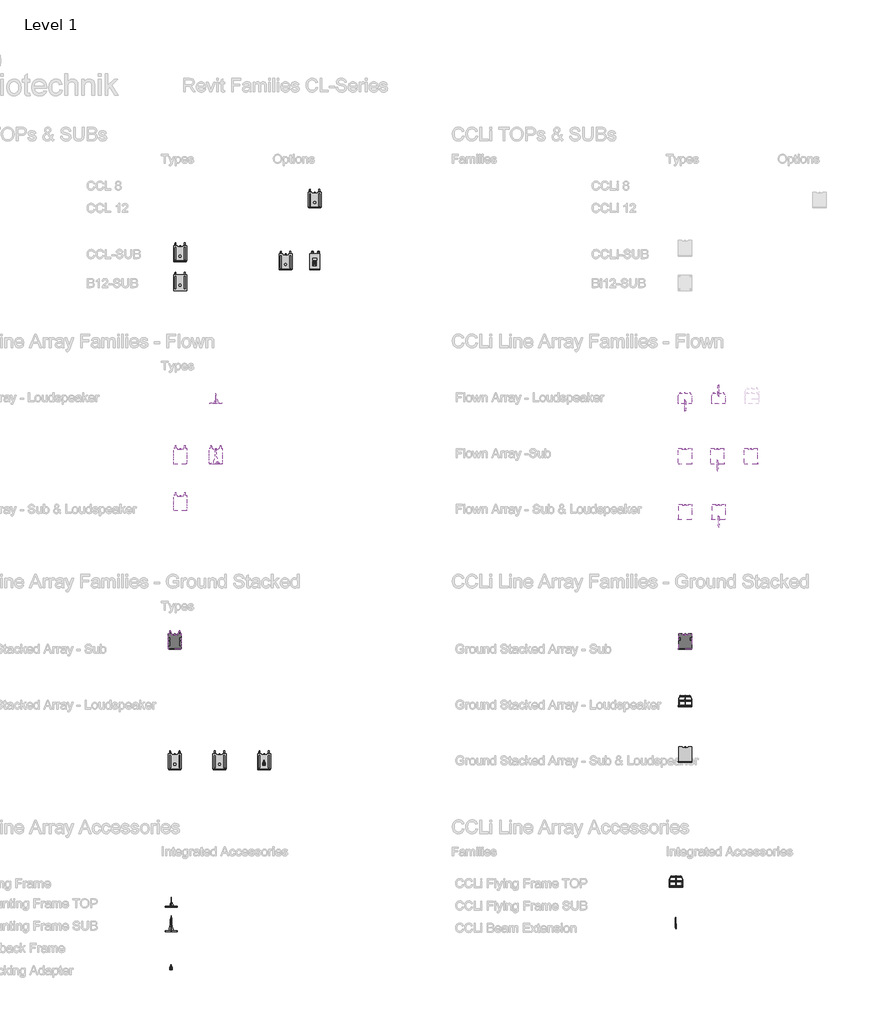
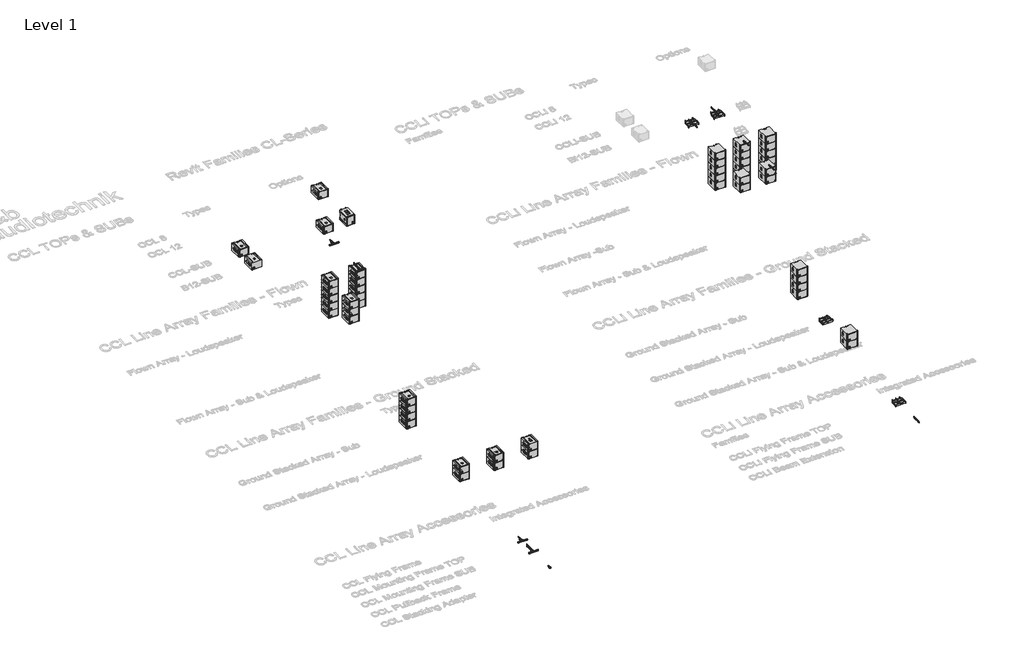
# One storey, part 1 of 31: 69 proxies.
"""IFC4 building model written with IfcOpenShell, lengths in millimetres."""

from ifc_helpers import new_model, si_unit, origin, place, context, project, spatial, transform, mapped, element, save
from components import communication_devices_fb2c1ed3, communication_devices_adbe50ae, communication_devices_fb72d271, communication_devices_d598217c, communication_devices_8c2810ba, communication_devices_898eba8c, communication_devices_964db2fb, communication_devices_39887777, b12_sub_ed2cee65, b12_sub_e7cbb8c9, b12_sub_46f5f9e7, ccl_mounting_frame_sub_df6a48cd, ccl_mounting_frame_sub_d8e833bb, ccl_mounting_frame_top_87f3c3ac, ccl_mounting_frame_top_1212049c, ccl_stacking_adapter_d4930768, ccl_sub_ef88d173, ccl_sub_9b849b68, ccl_sub_ec176843, ccl_sub_fae7e5b5, ccl_sub_53e2f06a, ccl_sub_f0981f6c, ccl_sub_f7413ddf, ccl_sub_1b7c7d1c

model = new_model("IFC4")

# Units and contexts
model_context = context("Model", 3, world=origin())
ifc_project = project(units=[si_unit("LENGTHUNIT", "METRE", prefix="MILLI")], contexts=[model_context])

# Site, building, storey
site = spatial("IfcSite", under=ifc_project)
building = spatial("IfcBuilding", under=site)
storey = spatial("IfcBuildingStorey", under=building, Name="Level 1", Elevation=0.0)

# Proxies
placement = place(None, origin())
communication_devices_shape = communication_devices_fb2c1ed3(model_context)
element("IfcBuildingElementProxy", 1, Name="d&b CL-Series ArraySight Sender Unit : ArraySight Sender Unit", ObjectType="d&b CL-Series ArraySight Sender Unit : ArraySight Sender Unit", at=placement, inside=storey, context=model_context, shape_type="MappedRepresentation", body=[
    mapped(communication_devices_shape, transform((-8986.6434304, 3878.6606066, 4000.03125), x_axis=(1.0, 0.0, 0.0), y_axis=(0.0, 1.0, 0.0), z_axis=(0.0, 0.0, 1.0))),
])
communication_devices_2_shape = communication_devices_adbe50ae(model_context)
communication_devices_3_shape = communication_devices_fb72d271(model_context)
communication_devices_4_shape = communication_devices_d598217c(model_context)
element("IfcBuildingElementProxy", 2, Name="d&b CL-Series CCLi Flying Frame TOP : d&b CL-Series CCLi Flying Frame TOP", ObjectType="d&b CL-Series CCLi Flying Frame TOP : d&b CL-Series CCLi Flying Frame TOP", at=placement, inside=storey, context=model_context, shape_type="MappedRepresentation", body=[
    mapped(communication_devices_2_shape, transform((11975.179764, -6989.4300168, 99.0), x_axis=(-1.0, 0.0, 0.0), y_axis=(0.0, 1.0, 0.0), z_axis=(0.0, 0.0, -1.0))),
    mapped(communication_devices_3_shape, transform((11975.179764, -6989.4300168, 99.0), x_axis=(-1.0, 0.0, 0.0), y_axis=(0.0, 1.0, 0.0), z_axis=(0.0, 0.0, -1.0))),
    mapped(communication_devices_4_shape, transform((11975.179764, -6989.4300168, 99.0), x_axis=(-1.0, 0.0, 0.0), y_axis=(0.0, 1.0, 0.0), z_axis=(0.0, 0.0, -1.0))),
])
communication_devices_5_shape = communication_devices_8c2810ba(model_context)
element("IfcBuildingElementProxy", 3, Name="d&b CL-Series CCLi Beam Extension : d&b CL-Series CCLi Beam Extension", ObjectType="d&b CL-Series CCLi Beam Extension : d&b CL-Series CCLi Beam Extension", at=placement, inside=storey, context=model_context, shape_type="MappedRepresentation", body=[
    mapped(communication_devices_5_shape, transform((11571.179764, -16813.4300168, 0.0), x_axis=(1.0, 0.0, 0.0), y_axis=(0.0, 1.0, 0.0), z_axis=(0.0, 0.0, 1.0))),
])
element("IfcBuildingElementProxy", 4, Name="d&b CL-Series CCLi Beam Extension : d&b CL-Series CCLi Beam Extension", ObjectType="d&b CL-Series CCLi Beam Extension : d&b CL-Series CCLi Beam Extension", at=placement, inside=storey, context=model_context, shape_type="MappedRepresentation", body=[
    mapped(communication_devices_5_shape, transform((13481.179764, 7017.9106066, 4030.25), x_axis=(1.0, 0.0, 0.0), y_axis=(0.0, 1.0, 0.0), z_axis=(0.0, 0.0, 1.0))),
])
element("IfcBuildingElementProxy", 5, Name="d&b CL-Series CCLi Beam Extension : d&b CL-Series CCLi Beam Extension", ObjectType="d&b CL-Series CCLi Beam Extension : d&b CL-Series CCLi Beam Extension", at=placement, inside=storey, context=model_context, shape_type="MappedRepresentation", body=[
    mapped(communication_devices_5_shape, transform((13410.0685035, 3944.4106066, 4030.65), x_axis=(-1.0, 0.0, 0.0), y_axis=(0.0, -1.0, 0.0), z_axis=(0.0, 0.0, 1.0))),
])
element("IfcBuildingElementProxy", 6, Name="d&b CL-Series CCLi Beam Extension : d&b CL-Series CCLi Beam Extension", ObjectType="d&b CL-Series CCLi Beam Extension : d&b CL-Series CCLi Beam Extension", at=placement, inside=storey, context=model_context, shape_type="MappedRepresentation", body=[
    mapped(communication_devices_5_shape, transform((13465.179764, 1447.0739696, 4030.65), x_axis=(-1.0, 0.0, 0.0), y_axis=(0.0, -1.0, 0.0), z_axis=(0.0, 0.0, 1.0))),
])
element("IfcBuildingElementProxy", 7, Name="d&b CL-Series CCLi Beam Extension : d&b CL-Series CCLi Beam Extension", ObjectType="d&b CL-Series CCLi Beam Extension : d&b CL-Series CCLi Beam Extension", at=placement, inside=storey, context=model_context, shape_type="MappedRepresentation", body=[
    mapped(communication_devices_5_shape, transform((11961.179764, 6644.4106066, 4030.25), x_axis=(-1.0, 0.0, 0.0), y_axis=(0.0, -1.0, 0.0), z_axis=(0.0, 0.0, 1.0))),
])
communication_devices_6_shape = communication_devices_898eba8c(model_context)
communication_devices_7_shape = communication_devices_964db2fb(model_context)
element("IfcBuildingElementProxy", 8, Name="d&b CL-Series CCLi-SUB : CCLi-SUB", ObjectType="d&b CL-Series CCLi-SUB : CCLi-SUB", at=placement, inside=storey, context=model_context, shape_type="MappedRepresentation", body=[
    mapped(communication_devices_6_shape, transform((9471.179764, 3933.9100093, 3539.3), x_axis=(1.0, 0.0, 0.0), y_axis=(0.0, 1.0, 0.0), z_axis=(0.0, 0.0, 1.0))),
    mapped(communication_devices_7_shape, transform((9471.179764, 3933.9100093, 3539.3), x_axis=(1.0, 0.0, 0.0), y_axis=(0.0, 1.0, 0.0), z_axis=(0.0, 0.0, 1.0))),
])
element("IfcBuildingElementProxy", 9, Name="d&b CL-Series CCLi-SUB : CCLi-SUB", ObjectType="d&b CL-Series CCLi-SUB : CCLi-SUB", at=placement, inside=storey, context=model_context, shape_type="MappedRepresentation", body=[
    mapped(communication_devices_6_shape, transform((9471.179764, 3933.9100093, 3084.8), x_axis=(1.0, 0.0, 0.0), y_axis=(0.0, 1.0, 0.0), z_axis=(0.0, 0.0, 1.0))),
    mapped(communication_devices_7_shape, transform((9471.179764, 3933.9100093, 3084.8), x_axis=(1.0, 0.0, 0.0), y_axis=(0.0, 1.0, 0.0), z_axis=(0.0, 0.0, 1.0))),
])
element("IfcBuildingElementProxy", 10, Name="d&b CL-Series CCLi-SUB : CCLi-SUB", ObjectType="d&b CL-Series CCLi-SUB : CCLi-SUB", at=placement, inside=storey, context=model_context, shape_type="MappedRepresentation", body=[
    mapped(communication_devices_6_shape, transform((9471.179764, 3933.9100093, 2630.3), x_axis=(1.0, 0.0, 0.0), y_axis=(0.0, 1.0, 0.0), z_axis=(0.0, 0.0, 1.0))),
    mapped(communication_devices_7_shape, transform((9471.179764, 3933.9100093, 2630.3), x_axis=(1.0, 0.0, 0.0), y_axis=(0.0, 1.0, 0.0), z_axis=(0.0, 0.0, 1.0))),
])
element("IfcBuildingElementProxy", 11, Name="d&b CL-Series CCLi-SUB : CCLi-SUB", ObjectType="d&b CL-Series CCLi-SUB : CCLi-SUB", at=placement, inside=storey, context=model_context, shape_type="MappedRepresentation", body=[
    mapped(communication_devices_6_shape, transform((9471.179764, 3933.9100093, 2175.8), x_axis=(1.0, 0.0, 0.0), y_axis=(0.0, 1.0, 0.0), z_axis=(0.0, 0.0, 1.0))),
    mapped(communication_devices_7_shape, transform((9471.179764, 3933.9100093, 2175.8), x_axis=(1.0, 0.0, 0.0), y_axis=(0.0, 1.0, 0.0), z_axis=(0.0, 0.0, 1.0))),
])
element("IfcBuildingElementProxy", 12, Name="d&b CL-Series CCLi-SUB : CCLi-SUB", ObjectType="d&b CL-Series CCLi-SUB : CCLi-SUB", at=placement, inside=storey, context=model_context, shape_type="MappedRepresentation", body=[
    mapped(communication_devices_6_shape, transform((9471.179764, 3933.9100093, 1721.3), x_axis=(1.0, 0.0, 0.0), y_axis=(0.0, 1.0, 0.0), z_axis=(0.0, 0.0, 1.0))),
    mapped(communication_devices_7_shape, transform((9471.179764, 3933.9100093, 1721.3), x_axis=(1.0, 0.0, 0.0), y_axis=(0.0, 1.0, 0.0), z_axis=(0.0, 0.0, 1.0))),
])
element("IfcBuildingElementProxy", 13, Name="d&b CL-Series CCLi-SUB : CCLi-SUB", ObjectType="d&b CL-Series CCLi-SUB : CCLi-SUB", at=placement, inside=storey, context=model_context, shape_type="MappedRepresentation", body=[
    mapped(communication_devices_6_shape, transform((10920.0685035, 3933.9100093, 3539.3), x_axis=(1.0, 0.0, 0.0), y_axis=(0.0, 1.0, 0.0), z_axis=(0.0, 0.0, 1.0))),
    mapped(communication_devices_7_shape, transform((10920.0685035, 3933.9100093, 3539.3), x_axis=(1.0, 0.0, 0.0), y_axis=(0.0, 1.0, 0.0), z_axis=(0.0, 0.0, 1.0))),
])
element("IfcBuildingElementProxy", 14, Name="d&b CL-Series CCLi-SUB : CCLi-SUB", ObjectType="d&b CL-Series CCLi-SUB : CCLi-SUB", at=placement, inside=storey, context=model_context, shape_type="MappedRepresentation", body=[
    mapped(communication_devices_6_shape, transform((10920.0685035, 3933.9100093, 3084.8), x_axis=(1.0, 0.0, 0.0), y_axis=(0.0, 1.0, 0.0), z_axis=(0.0, 0.0, 1.0))),
    mapped(communication_devices_7_shape, transform((10920.0685035, 3933.9100093, 3084.8), x_axis=(1.0, 0.0, 0.0), y_axis=(0.0, 1.0, 0.0), z_axis=(0.0, 0.0, 1.0))),
])
element("IfcBuildingElementProxy", 15, Name="d&b CL-Series CCLi-SUB : CCLi-SUB", ObjectType="d&b CL-Series CCLi-SUB : CCLi-SUB", at=placement, inside=storey, context=model_context, shape_type="MappedRepresentation", body=[
    mapped(communication_devices_6_shape, transform((10920.0685035, 3933.9100093, 2630.3), x_axis=(1.0, 0.0, 0.0), y_axis=(0.0, 1.0, 0.0), z_axis=(0.0, 0.0, 1.0))),
    mapped(communication_devices_7_shape, transform((10920.0685035, 3933.9100093, 2630.3), x_axis=(1.0, 0.0, 0.0), y_axis=(0.0, 1.0, 0.0), z_axis=(0.0, 0.0, 1.0))),
])
element("IfcBuildingElementProxy", 16, Name="d&b CL-Series CCLi-SUB : CCLi-SUB", ObjectType="d&b CL-Series CCLi-SUB : CCLi-SUB", at=placement, inside=storey, context=model_context, shape_type="MappedRepresentation", body=[
    mapped(communication_devices_6_shape, transform((10920.0685035, 3933.9100093, 2175.8), x_axis=(1.0, 0.0, 0.0), y_axis=(0.0, 1.0, 0.0), z_axis=(0.0, 0.0, 1.0))),
    mapped(communication_devices_7_shape, transform((10920.0685035, 3933.9100093, 2175.8), x_axis=(1.0, 0.0, 0.0), y_axis=(0.0, 1.0, 0.0), z_axis=(0.0, 0.0, 1.0))),
])
element("IfcBuildingElementProxy", 17, Name="d&b CL-Series CCLi-SUB : CCLi-SUB", ObjectType="d&b CL-Series CCLi-SUB : CCLi-SUB", at=placement, inside=storey, context=model_context, shape_type="MappedRepresentation", body=[
    mapped(communication_devices_6_shape, transform((10920.0685035, 3933.9100093, 1721.3), x_axis=(1.0, 0.0, 0.0), y_axis=(0.0, 1.0, 0.0), z_axis=(0.0, 0.0, 1.0))),
    mapped(communication_devices_7_shape, transform((10920.0685035, 3933.9100093, 1721.3), x_axis=(1.0, 0.0, 0.0), y_axis=(0.0, 1.0, 0.0), z_axis=(0.0, 0.0, 1.0))),
])
element("IfcBuildingElementProxy", 18, Name="d&b CL-Series CCLi-SUB : CCLi-SUB", ObjectType="d&b CL-Series CCLi-SUB : CCLi-SUB", at=placement, inside=storey, context=model_context, shape_type="MappedRepresentation", body=[
    mapped(communication_devices_6_shape, transform((12420.0685035, 3933.9100093, 3539.3), x_axis=(1.0, 0.0, 0.0), y_axis=(0.0, 1.0, 0.0), z_axis=(0.0, 0.0, 1.0))),
    mapped(communication_devices_7_shape, transform((12420.0685035, 3933.9100093, 3539.3), x_axis=(1.0, 0.0, 0.0), y_axis=(0.0, 1.0, 0.0), z_axis=(0.0, 0.0, 1.0))),
])
element("IfcBuildingElementProxy", 19, Name="d&b CL-Series CCLi-SUB : CCLi-SUB", ObjectType="d&b CL-Series CCLi-SUB : CCLi-SUB", at=placement, inside=storey, context=model_context, shape_type="MappedRepresentation", body=[
    mapped(communication_devices_6_shape, transform((12420.0685035, 3933.9100093, 3084.8), x_axis=(1.0, 0.0, 0.0), y_axis=(0.0, 1.0, 0.0), z_axis=(0.0, 0.0, 1.0))),
    mapped(communication_devices_7_shape, transform((12420.0685035, 3933.9100093, 3084.8), x_axis=(1.0, 0.0, 0.0), y_axis=(0.0, 1.0, 0.0), z_axis=(0.0, 0.0, 1.0))),
])
element("IfcBuildingElementProxy", 20, Name="d&b CL-Series CCLi-SUB : CCLi-SUB", ObjectType="d&b CL-Series CCLi-SUB : CCLi-SUB", at=placement, inside=storey, context=model_context, shape_type="MappedRepresentation", body=[
    mapped(communication_devices_6_shape, transform((12420.0685035, 3933.9100093, 2630.3), x_axis=(1.0, 0.0, 0.0), y_axis=(0.0, 1.0, 0.0), z_axis=(0.0, 0.0, 1.0))),
    mapped(communication_devices_7_shape, transform((12420.0685035, 3933.9100093, 2630.3), x_axis=(1.0, 0.0, 0.0), y_axis=(0.0, 1.0, 0.0), z_axis=(0.0, 0.0, 1.0))),
])
element("IfcBuildingElementProxy", 21, Name="d&b CL-Series CCLi-SUB : CCLi-SUB", ObjectType="d&b CL-Series CCLi-SUB : CCLi-SUB", at=placement, inside=storey, context=model_context, shape_type="MappedRepresentation", body=[
    mapped(communication_devices_6_shape, transform((12420.0685035, 3933.9100093, 2175.8), x_axis=(1.0, 0.0, 0.0), y_axis=(0.0, 1.0, 0.0), z_axis=(0.0, 0.0, 1.0))),
    mapped(communication_devices_7_shape, transform((12420.0685035, 3933.9100093, 2175.8), x_axis=(1.0, 0.0, 0.0), y_axis=(0.0, 1.0, 0.0), z_axis=(0.0, 0.0, 1.0))),
])
element("IfcBuildingElementProxy", 22, Name="d&b CL-Series CCLi-SUB : CCLi-SUB", ObjectType="d&b CL-Series CCLi-SUB : CCLi-SUB", at=placement, inside=storey, context=model_context, shape_type="MappedRepresentation", body=[
    mapped(communication_devices_6_shape, transform((12420.0685035, 3933.9100093, 1721.3), x_axis=(1.0, 0.0, 0.0), y_axis=(0.0, 1.0, 0.0), z_axis=(0.0, 0.0, 1.0))),
    mapped(communication_devices_7_shape, transform((12420.0685035, 3933.9100093, 1721.3), x_axis=(1.0, 0.0, 0.0), y_axis=(0.0, 1.0, 0.0), z_axis=(0.0, 0.0, 1.0))),
])
element("IfcBuildingElementProxy", 23, Name="d&b CL-Series CCLi-SUB : CCLi-SUB", ObjectType="d&b CL-Series CCLi-SUB : CCLi-SUB", at=placement, inside=storey, context=model_context, shape_type="MappedRepresentation", body=[
    mapped(communication_devices_6_shape, transform((9475.179764, -4366.2515644, 0.0), x_axis=(1.0, 0.0, 0.0), y_axis=(0.0, 1.0, 0.0), z_axis=(0.0, 0.0, 1.0))),
    mapped(communication_devices_7_shape, transform((9475.179764, -4366.2515644, 0.0), x_axis=(1.0, 0.0, 0.0), y_axis=(0.0, 1.0, 0.0), z_axis=(0.0, 0.0, 1.0))),
])
element("IfcBuildingElementProxy", 24, Name="d&b CL-Series CCLi-SUB : CCLi-SUB", ObjectType="d&b CL-Series CCLi-SUB : CCLi-SUB", at=placement, inside=storey, context=model_context, shape_type="MappedRepresentation", body=[
    mapped(communication_devices_6_shape, transform((9475.179764, -4366.2526829, 454.4969022), x_axis=(1.0, 0.0, 0.0), y_axis=(0.0, 0.9999999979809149, -6.354659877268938e-05), z_axis=(0.0, 6.354659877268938e-05, 0.9999999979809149))),
    mapped(communication_devices_7_shape, transform((9475.179764, -4366.2526829, 454.4969022), x_axis=(1.0, 0.0, 0.0), y_axis=(0.0, 0.9999999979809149, -6.354659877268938e-05), z_axis=(0.0, 6.354659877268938e-05, 0.9999999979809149))),
])
element("IfcBuildingElementProxy", 25, Name="d&b CL-Series CCLi-SUB : CCLi-SUB", ObjectType="d&b CL-Series CCLi-SUB : CCLi-SUB", at=placement, inside=storey, context=model_context, shape_type="MappedRepresentation", body=[
    mapped(communication_devices_6_shape, transform((9475.179764, -4366.223801, 908.9969013), x_axis=(1.0, 0.0, 0.0), y_axis=(0.0, 0.999999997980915, -6.354659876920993e-05), z_axis=(0.0, 6.354659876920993e-05, 0.999999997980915))),
    mapped(communication_devices_7_shape, transform((9475.179764, -4366.223801, 908.9969013), x_axis=(1.0, 0.0, 0.0), y_axis=(0.0, 0.999999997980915, -6.354659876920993e-05), z_axis=(0.0, 6.354659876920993e-05, 0.999999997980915))),
])
element("IfcBuildingElementProxy", 26, Name="d&b CL-Series CCLi-SUB : CCLi-SUB", ObjectType="d&b CL-Series CCLi-SUB : CCLi-SUB", at=placement, inside=storey, context=model_context, shape_type="MappedRepresentation", body=[
    mapped(communication_devices_6_shape, transform((9475.179764, -4366.1949191, 1363.4969003), x_axis=(1.0, 0.0, 0.0), y_axis=(0.0, 0.999999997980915, -6.354659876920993e-05), z_axis=(0.0, 6.354659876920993e-05, 0.999999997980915))),
    mapped(communication_devices_7_shape, transform((9475.179764, -4366.1949191, 1363.4969003), x_axis=(1.0, 0.0, 0.0), y_axis=(0.0, 0.999999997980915, -6.354659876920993e-05), z_axis=(0.0, 6.354659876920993e-05, 0.999999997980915))),
])
element("IfcBuildingElementProxy", 27, Name="d&b CL-Series CCLi-SUB : CCLi-SUB", ObjectType="d&b CL-Series CCLi-SUB : CCLi-SUB", at=placement, inside=storey, context=model_context, shape_type="MappedRepresentation", body=[
    mapped(communication_devices_6_shape, transform((9475.179764, -9427.4306141, -5.0), x_axis=(1.0, 0.0, 0.0), y_axis=(0.0, 1.0, 0.0), z_axis=(0.0, 0.0, 1.0))),
    mapped(communication_devices_7_shape, transform((9475.179764, -9427.4306141, -5.0), x_axis=(1.0, 0.0, 0.0), y_axis=(0.0, 1.0, 0.0), z_axis=(0.0, 0.0, 1.0))),
])
element("IfcBuildingElementProxy", 28, Name="d&b CL-Series CCLi-SUB : CCLi-SUB", ObjectType="d&b CL-Series CCLi-SUB : CCLi-SUB", at=placement, inside=storey, context=model_context, shape_type="MappedRepresentation", body=[
    mapped(communication_devices_6_shape, transform((9475.179764, -9427.4306141, 450.0), x_axis=(1.0, 0.0, 0.0), y_axis=(0.0, 1.0, 0.0), z_axis=(0.0, 0.0, 1.0))),
    mapped(communication_devices_7_shape, transform((9475.179764, -9427.4306141, 450.0), x_axis=(1.0, 0.0, 0.0), y_axis=(0.0, 1.0, 0.0), z_axis=(0.0, 0.0, 1.0))),
])
element("IfcBuildingElementProxy", 29, Name="d&b CL-Series CCLi-SUB : CCLi-SUB", ObjectType="d&b CL-Series CCLi-SUB : CCLi-SUB", at=placement, inside=storey, context=model_context, shape_type="MappedRepresentation", body=[
    mapped(communication_devices_6_shape, transform((9475.179764, 1436.5733723, 3539.3), x_axis=(1.0, 0.0, 0.0), y_axis=(0.0, 1.0, 0.0), z_axis=(0.0, 0.0, 1.0))),
    mapped(communication_devices_7_shape, transform((9475.179764, 1436.5733723, 3539.3), x_axis=(1.0, 0.0, 0.0), y_axis=(0.0, 1.0, 0.0), z_axis=(0.0, 0.0, 1.0))),
])
element("IfcBuildingElementProxy", 30, Name="d&b CL-Series CCLi-SUB : CCLi-SUB", ObjectType="d&b CL-Series CCLi-SUB : CCLi-SUB", at=placement, inside=storey, context=model_context, shape_type="MappedRepresentation", body=[
    mapped(communication_devices_6_shape, transform((9475.179764, 1436.5733723, 3084.8), x_axis=(1.0, 0.0, 0.0), y_axis=(0.0, 1.0, 0.0), z_axis=(0.0, 0.0, 1.0))),
    mapped(communication_devices_7_shape, transform((9475.179764, 1436.5733723, 3084.8), x_axis=(1.0, 0.0, 0.0), y_axis=(0.0, 1.0, 0.0), z_axis=(0.0, 0.0, 1.0))),
])
element("IfcBuildingElementProxy", 31, Name="d&b CL-Series CCLi-SUB : CCLi-SUB", ObjectType="d&b CL-Series CCLi-SUB : CCLi-SUB", at=placement, inside=storey, context=model_context, shape_type="MappedRepresentation", body=[
    mapped(communication_devices_6_shape, transform((10975.179764, 1436.5733723, 3539.3), x_axis=(1.0, 0.0, 0.0), y_axis=(0.0, 1.0, 0.0), z_axis=(0.0, 0.0, 1.0))),
    mapped(communication_devices_7_shape, transform((10975.179764, 1436.5733723, 3539.3), x_axis=(1.0, 0.0, 0.0), y_axis=(0.0, 1.0, 0.0), z_axis=(0.0, 0.0, 1.0))),
])
element("IfcBuildingElementProxy", 32, Name="d&b CL-Series CCLi-SUB : CCLi-SUB", ObjectType="d&b CL-Series CCLi-SUB : CCLi-SUB", at=placement, inside=storey, context=model_context, shape_type="MappedRepresentation", body=[
    mapped(communication_devices_6_shape, transform((10975.179764, 1436.5733723, 3084.8), x_axis=(1.0, 0.0, 0.0), y_axis=(0.0, 1.0, 0.0), z_axis=(0.0, 0.0, 1.0))),
    mapped(communication_devices_7_shape, transform((10975.179764, 1436.5733723, 3084.8), x_axis=(1.0, 0.0, 0.0), y_axis=(0.0, 1.0, 0.0), z_axis=(0.0, 0.0, 1.0))),
])
communication_devices_8_shape = communication_devices_39887777(model_context)
element("IfcBuildingElementProxy", 33, Name="d&b CL-Series CCLi Flying Frame TOP : d&b CL-Series CCLi Flying Frame TOP", ObjectType="d&b CL-Series CCLi Flying Frame TOP : d&b CL-Series CCLi Flying Frame TOP", at=placement, inside=storey, context=model_context, shape_type="MappedRepresentation", body=[
    mapped(communication_devices_8_shape, transform((11571.179764, -15075.4300168, 0.0), x_axis=(1.0, 0.0, 0.0), y_axis=(0.0, 1.0, 0.0), z_axis=(0.0, 0.0, 1.0))),
    mapped(communication_devices_3_shape, transform((11571.179764, -15075.4300168, 0.0), x_axis=(1.0, 0.0, 0.0), y_axis=(0.0, 1.0, 0.0), z_axis=(0.0, 0.0, 1.0))),
    mapped(communication_devices_4_shape, transform((11571.179764, -15075.4300168, 0.0), x_axis=(1.0, 0.0, 0.0), y_axis=(0.0, 1.0, 0.0), z_axis=(0.0, 0.0, 1.0))),
])
element("IfcBuildingElementProxy", 34, Name="d&b CL-Series CCLi Flying Frame TOP : d&b CL-Series CCLi Flying Frame TOP", ObjectType="d&b CL-Series CCLi Flying Frame TOP : d&b CL-Series CCLi Flying Frame TOP", at=placement, inside=storey, context=model_context, shape_type="MappedRepresentation", body=[
    mapped(communication_devices_8_shape, transform((11971.179764, 6571.9106066, 3985.0), x_axis=(1.0, 0.0, 0.0), y_axis=(0.0, 1.0, 0.0), z_axis=(0.0, 0.0, 1.0))),
    mapped(communication_devices_3_shape, transform((11971.179764, 6571.9106066, 3985.0), x_axis=(1.0, 0.0, 0.0), y_axis=(0.0, 1.0, 0.0), z_axis=(0.0, 0.0, 1.0))),
    mapped(communication_devices_4_shape, transform((11971.179764, 6571.9106066, 3985.0), x_axis=(1.0, 0.0, 0.0), y_axis=(0.0, 1.0, 0.0), z_axis=(0.0, 0.0, 1.0))),
])
element("IfcBuildingElementProxy", 35, Name="d&b CL-Series CCLi Flying Frame TOP : d&b CL-Series CCLi Flying Frame TOP", ObjectType="d&b CL-Series CCLi Flying Frame TOP : d&b CL-Series CCLi Flying Frame TOP", at=placement, inside=storey, context=model_context, shape_type="MappedRepresentation", body=[
    mapped(communication_devices_8_shape, transform((13471.179764, 6571.9106066, 3985.0), x_axis=(1.0, 0.0, 0.0), y_axis=(0.0, 1.0, 0.0), z_axis=(0.0, 0.0, 1.0))),
    mapped(communication_devices_3_shape, transform((13471.179764, 6571.9106066, 3985.0), x_axis=(1.0, 0.0, 0.0), y_axis=(0.0, 1.0, 0.0), z_axis=(0.0, 0.0, 1.0))),
    mapped(communication_devices_4_shape, transform((13471.179764, 6571.9106066, 3985.0), x_axis=(1.0, 0.0, 0.0), y_axis=(0.0, 1.0, 0.0), z_axis=(0.0, 0.0, 1.0))),
])
b12_sub_shape = b12_sub_ed2cee65(model_context)
b12_sub_2_shape = b12_sub_e7cbb8c9(model_context)
b12_sub_3_shape = b12_sub_46f5f9e7(model_context)
element("IfcBuildingElementProxy", 36, Name="d&b CL-Series B12-SUB : B12-SUB", ObjectType="d&b CL-Series B12-SUB : B12-SUB", at=placement, inside=storey, context=model_context, shape_type="MappedRepresentation", body=[
    mapped(b12_sub_shape, transform((-13141.6434304, 11707.2506327, 0.0), x_axis=(1.0, 0.0, 0.0), y_axis=(0.0, 1.0, 0.0), z_axis=(0.0, 0.0, 1.0))),
    mapped(b12_sub_2_shape, transform((-13141.6434304, 11707.2506327, 0.0), x_axis=(1.0, 0.0, 0.0), y_axis=(0.0, 1.0, 0.0), z_axis=(0.0, 0.0, 1.0))),
    mapped(b12_sub_3_shape, transform((-13141.6434304, 11707.2506327, 0.0), x_axis=(1.0, 0.0, 0.0), y_axis=(0.0, 1.0, 0.0), z_axis=(0.0, 0.0, 1.0))),
])
ccl_mounting_frame_sub_shape = ccl_mounting_frame_sub_df6a48cd(model_context)
ccl_mounting_frame_sub_2_shape = ccl_mounting_frame_sub_d8e833bb(model_context)
element("IfcBuildingElementProxy", 37, Name="d&b CL-Series CCL Mounting Frame SUB : CCL Mounting Frame SUB", ObjectType="d&b CL-Series CCL Mounting Frame SUB : CCL Mounting Frame SUB", at=placement, inside=storey, context=model_context, shape_type="MappedRepresentation", body=[
    mapped(ccl_mounting_frame_sub_shape, transform((-11041.6434304, -17076.1800168, 0.0), x_axis=(1.0, 0.0, 0.0), y_axis=(0.0, 1.0, 0.0), z_axis=(0.0, 0.0, 1.0))),
    mapped(ccl_mounting_frame_sub_2_shape, transform((-11041.6434304, -17076.1800168, 0.0), x_axis=(1.0, 0.0, 0.0), y_axis=(0.0, 1.0, 0.0), z_axis=(0.0, 0.0, 1.0))),
])
element("IfcBuildingElementProxy", 38, Name="d&b CL-Series CCL Mounting Frame SUB : CCL Mounting Frame SUB", ObjectType="d&b CL-Series CCL Mounting Frame SUB : CCL Mounting Frame SUB", at=placement, inside=storey, context=model_context, shape_type="MappedRepresentation", body=[
    mapped(ccl_mounting_frame_sub_shape, transform((-9041.6434304, 3871.6606066, 3996.03125), x_axis=(1.0, 0.0, 0.0), y_axis=(0.0, 1.0, 0.0), z_axis=(0.0, 0.0, 1.0))),
    mapped(ccl_mounting_frame_sub_2_shape, transform((-9041.6434304, 3871.6606066, 3996.03125), x_axis=(1.0, 0.0, 0.0), y_axis=(0.0, 1.0, 0.0), z_axis=(0.0, 0.0, 1.0))),
])
ccl_mounting_frame_top_shape = ccl_mounting_frame_top_87f3c3ac(model_context)
ccl_mounting_frame_top_2_shape = ccl_mounting_frame_top_1212049c(model_context)
element("IfcBuildingElementProxy", 39, Name="d&b CL-Series CCL Mounting Frame TOP : CCL Mounting Frame TOP", ObjectType="d&b CL-Series CCL Mounting Frame TOP : CCL Mounting Frame TOP", at=placement, inside=storey, context=model_context, shape_type="MappedRepresentation", body=[
    mapped(ccl_mounting_frame_top_shape, transform((-11041.6434304, -15976.1800168, 0.0), x_axis=(1.0, 0.0, 0.0), y_axis=(0.0, 1.0, 0.0), z_axis=(0.0, 0.0, 1.0))),
    mapped(ccl_mounting_frame_top_2_shape, transform((-11041.6434304, -15976.1800168, 0.0), x_axis=(1.0, 0.0, 0.0), y_axis=(0.0, 1.0, 0.0), z_axis=(0.0, 0.0, 1.0))),
])
element("IfcBuildingElementProxy", 40, Name="d&b CL-Series CCL Mounting Frame TOP : CCL Mounting Frame TOP", ObjectType="d&b CL-Series CCL Mounting Frame TOP : CCL Mounting Frame TOP", at=placement, inside=storey, context=model_context, shape_type="MappedRepresentation", body=[
    mapped(ccl_mounting_frame_top_shape, transform((-9041.6434304, 6575.1606066, 4001.5), x_axis=(1.0, 0.0, 0.0), y_axis=(0.0, 1.0, 0.0), z_axis=(0.0, 0.0, 1.0))),
    mapped(ccl_mounting_frame_top_2_shape, transform((-9041.6434304, 6575.1606066, 4001.5), x_axis=(1.0, 0.0, 0.0), y_axis=(0.0, 1.0, 0.0), z_axis=(0.0, 0.0, 1.0))),
])
ccl_stacking_adapter_shape = ccl_stacking_adapter_d4930768(model_context)
element("IfcBuildingElementProxy", 41, Name="d&b CL-Series CCL Stacking Adapter : CCL Stacking Adapter", ObjectType="d&b CL-Series CCL Stacking Adapter : CCL Stacking Adapter", at=placement, inside=storey, context=model_context, shape_type="MappedRepresentation", body=[
    mapped(ccl_stacking_adapter_shape, transform((-11041.6434304, -18776.1800168, 0.0), x_axis=(1.0, 0.0, 0.0), y_axis=(0.0, 1.0, 0.0), z_axis=(0.0, 0.0, 1.0))),
])
element("IfcBuildingElementProxy", 42, Name="d&b CL-Series CCL Stacking Adapter : CCL Stacking Adapter", ObjectType="d&b CL-Series CCL Stacking Adapter : CCL Stacking Adapter", at=placement, inside=storey, context=model_context, shape_type="MappedRepresentation", body=[
    mapped(ccl_stacking_adapter_shape, transform((-6878.7496645, -9624.3178966, 848.4286952), x_axis=(1.0, 0.0, 0.0), y_axis=(0.0, 1.0, 0.0), z_axis=(0.0, 0.0, 1.0))),
])
ccl_sub_shape = ccl_sub_ef88d173(model_context)
ccl_sub_2_shape = ccl_sub_9b849b68(model_context)
ccl_sub_3_shape = ccl_sub_ec176843(model_context)
ccl_sub_4_shape = ccl_sub_fae7e5b5(model_context)
element("IfcBuildingElementProxy", 43, Name="d&b CL-Series CCL-SUB : CCL-SUB", ObjectType="d&b CL-Series CCL-SUB : CCL-SUB", at=placement, inside=storey, context=model_context, shape_type="MappedRepresentation", body=[
    mapped(ccl_sub_shape, transform((-13141.6434304, 13007.2506327, 0.0), x_axis=(1.0, 0.0, 0.0), y_axis=(0.0, 1.0, 0.0), z_axis=(0.0, 0.0, 1.0))),
    mapped(ccl_sub_2_shape, transform((-13141.6434304, 13007.2506327, 0.0), x_axis=(1.0, 0.0, 0.0), y_axis=(0.0, 1.0, 0.0), z_axis=(0.0, 0.0, 1.0))),
    mapped(ccl_sub_3_shape, transform((-13141.6434304, 13007.2506327, 0.0), x_axis=(1.0, 0.0, 0.0), y_axis=(0.0, 1.0, 0.0), z_axis=(0.0, 0.0, 1.0))),
    mapped(ccl_sub_4_shape, transform((-13141.6434304, 13007.2506327, 0.0), x_axis=(1.0, 0.0, 0.0), y_axis=(0.0, 1.0, 0.0), z_axis=(0.0, 0.0, 1.0))),
])
element("IfcBuildingElementProxy", 44, Name="d&b CL-Series CCL-SUB : CCL-SUB", ObjectType="d&b CL-Series CCL-SUB : CCL-SUB", at=placement, inside=storey, context=model_context, shape_type="MappedRepresentation", body=[
    mapped(ccl_sub_shape, transform((-8416.0854406, 12636.3745622, 0.0), x_axis=(1.0, 0.0, 0.0), y_axis=(0.0, 1.0, 0.0), z_axis=(0.0, 0.0, 1.0))),
    mapped(ccl_sub_2_shape, transform((-8416.0854406, 12636.3745622, 0.0), x_axis=(1.0, 0.0, 0.0), y_axis=(0.0, 1.0, 0.0), z_axis=(0.0, 0.0, 1.0))),
    mapped(ccl_sub_3_shape, transform((-8416.0854406, 12636.3745622, 0.0), x_axis=(1.0, 0.0, 0.0), y_axis=(0.0, 1.0, 0.0), z_axis=(0.0, 0.0, 1.0))),
    mapped(ccl_sub_4_shape, transform((-8416.0854406, 12636.3745622, 0.0), x_axis=(1.0, 0.0, 0.0), y_axis=(0.0, 1.0, 0.0), z_axis=(0.0, 0.0, 1.0))),
])
element("IfcBuildingElementProxy", 45, Name="d&b CL-Series CCL-SUB : CCL-SUB", ObjectType="d&b CL-Series CCL-SUB : CCL-SUB", at=placement, inside=storey, context=model_context, shape_type="MappedRepresentation", body=[
    mapped(ccl_sub_shape, transform((-13141.6434304, 3933.9100093, 3539.3), x_axis=(1.0, 0.0, 0.0), y_axis=(0.0, 1.0, 0.0), z_axis=(0.0, 0.0, 1.0))),
    mapped(ccl_sub_2_shape, transform((-13141.6434304, 3933.9100093, 3539.3), x_axis=(1.0, 0.0, 0.0), y_axis=(0.0, 1.0, 0.0), z_axis=(0.0, 0.0, 1.0))),
    mapped(ccl_sub_3_shape, transform((-13141.6434304, 3933.9100093, 3539.3), x_axis=(1.0, 0.0, 0.0), y_axis=(0.0, 1.0, 0.0), z_axis=(0.0, 0.0, 1.0))),
    mapped(ccl_sub_4_shape, transform((-13141.6434304, 3933.9100093, 3539.3), x_axis=(1.0, 0.0, 0.0), y_axis=(0.0, 1.0, 0.0), z_axis=(0.0, 0.0, 1.0))),
])
element("IfcBuildingElementProxy", 46, Name="d&b CL-Series CCL-SUB : CCL-SUB", ObjectType="d&b CL-Series CCL-SUB : CCL-SUB", at=placement, inside=storey, context=model_context, shape_type="MappedRepresentation", body=[
    mapped(ccl_sub_shape, transform((-13141.6434304, 3933.9100093, 3084.8), x_axis=(1.0, 0.0, 0.0), y_axis=(0.0, 1.0, 0.0), z_axis=(0.0, 0.0, 1.0))),
    mapped(ccl_sub_2_shape, transform((-13141.6434304, 3933.9100093, 3084.8), x_axis=(1.0, 0.0, 0.0), y_axis=(0.0, 1.0, 0.0), z_axis=(0.0, 0.0, 1.0))),
    mapped(ccl_sub_3_shape, transform((-13141.6434304, 3933.9100093, 3084.8), x_axis=(1.0, 0.0, 0.0), y_axis=(0.0, 1.0, 0.0), z_axis=(0.0, 0.0, 1.0))),
    mapped(ccl_sub_4_shape, transform((-13141.6434304, 3933.9100093, 3084.8), x_axis=(1.0, 0.0, 0.0), y_axis=(0.0, 1.0, 0.0), z_axis=(0.0, 0.0, 1.0))),
])
element("IfcBuildingElementProxy", 47, Name="d&b CL-Series CCL-SUB : CCL-SUB", ObjectType="d&b CL-Series CCL-SUB : CCL-SUB", at=placement, inside=storey, context=model_context, shape_type="MappedRepresentation", body=[
    mapped(ccl_sub_shape, transform((-13141.6434304, 3933.9100093, 2630.3), x_axis=(1.0, 0.0, 0.0), y_axis=(0.0, 1.0, 0.0), z_axis=(0.0, 0.0, 1.0))),
    mapped(ccl_sub_2_shape, transform((-13141.6434304, 3933.9100093, 2630.3), x_axis=(1.0, 0.0, 0.0), y_axis=(0.0, 1.0, 0.0), z_axis=(0.0, 0.0, 1.0))),
    mapped(ccl_sub_3_shape, transform((-13141.6434304, 3933.9100093, 2630.3), x_axis=(1.0, 0.0, 0.0), y_axis=(0.0, 1.0, 0.0), z_axis=(0.0, 0.0, 1.0))),
    mapped(ccl_sub_4_shape, transform((-13141.6434304, 3933.9100093, 2630.3), x_axis=(1.0, 0.0, 0.0), y_axis=(0.0, 1.0, 0.0), z_axis=(0.0, 0.0, 1.0))),
])
element("IfcBuildingElementProxy", 48, Name="d&b CL-Series CCL-SUB : CCL-SUB", ObjectType="d&b CL-Series CCL-SUB : CCL-SUB", at=placement, inside=storey, context=model_context, shape_type="MappedRepresentation", body=[
    mapped(ccl_sub_shape, transform((-13141.6434304, 3933.9100093, 2175.8), x_axis=(1.0, 0.0, 0.0), y_axis=(0.0, 1.0, 0.0), z_axis=(0.0, 0.0, 1.0))),
    mapped(ccl_sub_2_shape, transform((-13141.6434304, 3933.9100093, 2175.8), x_axis=(1.0, 0.0, 0.0), y_axis=(0.0, 1.0, 0.0), z_axis=(0.0, 0.0, 1.0))),
    mapped(ccl_sub_3_shape, transform((-13141.6434304, 3933.9100093, 2175.8), x_axis=(1.0, 0.0, 0.0), y_axis=(0.0, 1.0, 0.0), z_axis=(0.0, 0.0, 1.0))),
    mapped(ccl_sub_4_shape, transform((-13141.6434304, 3933.9100093, 2175.8), x_axis=(1.0, 0.0, 0.0), y_axis=(0.0, 1.0, 0.0), z_axis=(0.0, 0.0, 1.0))),
])
element("IfcBuildingElementProxy", 49, Name="d&b CL-Series CCL-SUB : CCL-SUB", ObjectType="d&b CL-Series CCL-SUB : CCL-SUB", at=placement, inside=storey, context=model_context, shape_type="MappedRepresentation", body=[
    mapped(ccl_sub_shape, transform((-13141.6434304, 3933.9100093, 1721.3), x_axis=(1.0, 0.0, 0.0), y_axis=(0.0, 1.0, 0.0), z_axis=(0.0, 0.0, 1.0))),
    mapped(ccl_sub_2_shape, transform((-13141.6434304, 3933.9100093, 1721.3), x_axis=(1.0, 0.0, 0.0), y_axis=(0.0, 1.0, 0.0), z_axis=(0.0, 0.0, 1.0))),
    mapped(ccl_sub_3_shape, transform((-13141.6434304, 3933.9100093, 1721.3), x_axis=(1.0, 0.0, 0.0), y_axis=(0.0, 1.0, 0.0), z_axis=(0.0, 0.0, 1.0))),
    mapped(ccl_sub_4_shape, transform((-13141.6434304, 3933.9100093, 1721.3), x_axis=(1.0, 0.0, 0.0), y_axis=(0.0, 1.0, 0.0), z_axis=(0.0, 0.0, 1.0))),
])
element("IfcBuildingElementProxy", 50, Name="d&b CL-Series CCL-SUB : CCL-SUB", ObjectType="d&b CL-Series CCL-SUB : CCL-SUB", at=placement, inside=storey, context=model_context, shape_type="MappedRepresentation", body=[
    mapped(ccl_sub_shape, transform((-11541.6434304, 3933.9100093, 3539.3), x_axis=(1.0, 0.0, 0.0), y_axis=(0.0, 1.0, 0.0), z_axis=(0.0, 0.0, 1.0))),
    mapped(ccl_sub_2_shape, transform((-11541.6434304, 3933.9100093, 3539.3), x_axis=(1.0, 0.0, 0.0), y_axis=(0.0, 1.0, 0.0), z_axis=(0.0, 0.0, 1.0))),
    mapped(ccl_sub_3_shape, transform((-11541.6434304, 3933.9100093, 3539.3), x_axis=(1.0, 0.0, 0.0), y_axis=(0.0, 1.0, 0.0), z_axis=(0.0, 0.0, 1.0))),
    mapped(ccl_sub_4_shape, transform((-11541.6434304, 3933.9100093, 3539.3), x_axis=(1.0, 0.0, 0.0), y_axis=(0.0, 1.0, 0.0), z_axis=(0.0, 0.0, 1.0))),
])
element("IfcBuildingElementProxy", 51, Name="d&b CL-Series CCL-SUB : CCL-SUB", ObjectType="d&b CL-Series CCL-SUB : CCL-SUB", at=placement, inside=storey, context=model_context, shape_type="MappedRepresentation", body=[
    mapped(ccl_sub_shape, transform((-11541.6434304, 3933.9100093, 3084.8), x_axis=(1.0, 0.0, 0.0), y_axis=(0.0, 1.0, 0.0), z_axis=(0.0, 0.0, 1.0))),
    mapped(ccl_sub_2_shape, transform((-11541.6434304, 3933.9100093, 3084.8), x_axis=(1.0, 0.0, 0.0), y_axis=(0.0, 1.0, 0.0), z_axis=(0.0, 0.0, 1.0))),
    mapped(ccl_sub_3_shape, transform((-11541.6434304, 3933.9100093, 3084.8), x_axis=(1.0, 0.0, 0.0), y_axis=(0.0, 1.0, 0.0), z_axis=(0.0, 0.0, 1.0))),
    mapped(ccl_sub_4_shape, transform((-11541.6434304, 3933.9100093, 3084.8), x_axis=(1.0, 0.0, 0.0), y_axis=(0.0, 1.0, 0.0), z_axis=(0.0, 0.0, 1.0))),
])
element("IfcBuildingElementProxy", 52, Name="d&b CL-Series CCL-SUB : CCL-SUB", ObjectType="d&b CL-Series CCL-SUB : CCL-SUB", at=placement, inside=storey, context=model_context, shape_type="MappedRepresentation", body=[
    mapped(ccl_sub_shape, transform((-11541.6434304, 3933.9100093, 2630.3), x_axis=(1.0, 0.0, 0.0), y_axis=(0.0, 1.0, 0.0), z_axis=(0.0, 0.0, 1.0))),
    mapped(ccl_sub_2_shape, transform((-11541.6434304, 3933.9100093, 2630.3), x_axis=(1.0, 0.0, 0.0), y_axis=(0.0, 1.0, 0.0), z_axis=(0.0, 0.0, 1.0))),
    mapped(ccl_sub_3_shape, transform((-11541.6434304, 3933.9100093, 2630.3), x_axis=(1.0, 0.0, 0.0), y_axis=(0.0, 1.0, 0.0), z_axis=(0.0, 0.0, 1.0))),
    mapped(ccl_sub_4_shape, transform((-11541.6434304, 3933.9100093, 2630.3), x_axis=(1.0, 0.0, 0.0), y_axis=(0.0, 1.0, 0.0), z_axis=(0.0, 0.0, 1.0))),
])
element("IfcBuildingElementProxy", 53, Name="d&b CL-Series CCL-SUB : CCL-SUB", ObjectType="d&b CL-Series CCL-SUB : CCL-SUB", at=placement, inside=storey, context=model_context, shape_type="MappedRepresentation", body=[
    mapped(ccl_sub_shape, transform((-11541.6434304, 3933.9100093, 2175.8), x_axis=(1.0, 0.0, 0.0), y_axis=(0.0, 1.0, 0.0), z_axis=(0.0, 0.0, 1.0))),
    mapped(ccl_sub_2_shape, transform((-11541.6434304, 3933.9100093, 2175.8), x_axis=(1.0, 0.0, 0.0), y_axis=(0.0, 1.0, 0.0), z_axis=(0.0, 0.0, 1.0))),
    mapped(ccl_sub_3_shape, transform((-11541.6434304, 3933.9100093, 2175.8), x_axis=(1.0, 0.0, 0.0), y_axis=(0.0, 1.0, 0.0), z_axis=(0.0, 0.0, 1.0))),
    mapped(ccl_sub_4_shape, transform((-11541.6434304, 3933.9100093, 2175.8), x_axis=(1.0, 0.0, 0.0), y_axis=(0.0, 1.0, 0.0), z_axis=(0.0, 0.0, 1.0))),
])
element("IfcBuildingElementProxy", 54, Name="d&b CL-Series CCL-SUB : CCL-SUB", ObjectType="d&b CL-Series CCL-SUB : CCL-SUB", at=placement, inside=storey, context=model_context, shape_type="MappedRepresentation", body=[
    mapped(ccl_sub_shape, transform((-11541.6434304, 3933.9100093, 1721.3), x_axis=(1.0, 0.0, 0.0), y_axis=(0.0, 1.0, 0.0), z_axis=(0.0, 0.0, 1.0))),
    mapped(ccl_sub_2_shape, transform((-11541.6434304, 3933.9100093, 1721.3), x_axis=(1.0, 0.0, 0.0), y_axis=(0.0, 1.0, 0.0), z_axis=(0.0, 0.0, 1.0))),
    mapped(ccl_sub_3_shape, transform((-11541.6434304, 3933.9100093, 1721.3), x_axis=(1.0, 0.0, 0.0), y_axis=(0.0, 1.0, 0.0), z_axis=(0.0, 0.0, 1.0))),
    mapped(ccl_sub_4_shape, transform((-11541.6434304, 3933.9100093, 1721.3), x_axis=(1.0, 0.0, 0.0), y_axis=(0.0, 1.0, 0.0), z_axis=(0.0, 0.0, 1.0))),
])
element("IfcBuildingElementProxy", 55, Name="d&b CL-Series CCL-SUB : CCL-SUB", ObjectType="d&b CL-Series CCL-SUB : CCL-SUB", at=placement, inside=storey, context=model_context, shape_type="MappedRepresentation", body=[
    mapped(ccl_sub_shape, transform((-7116.0854406, 15407.2506327, 0.0), x_axis=(1.0, 0.0, 0.0), y_axis=(0.0, 1.0, 0.0), z_axis=(0.0, 0.0, 1.0))),
    mapped(ccl_sub_2_shape, transform((-7116.0854406, 15407.2506327, 0.0), x_axis=(1.0, 0.0, 0.0), y_axis=(0.0, 1.0, 0.0), z_axis=(0.0, 0.0, 1.0))),
    mapped(ccl_sub_3_shape, transform((-7116.0854406, 15407.2506327, 0.0), x_axis=(1.0, 0.0, 0.0), y_axis=(0.0, 1.0, 0.0), z_axis=(0.0, 0.0, 1.0))),
    mapped(ccl_sub_4_shape, transform((-7116.0854406, 15407.2506327, 0.0), x_axis=(1.0, 0.0, 0.0), y_axis=(0.0, 1.0, 0.0), z_axis=(0.0, 0.0, 1.0))),
])
element("IfcBuildingElementProxy", 56, Name="d&b CL-Series CCL-SUB : CCL-SUB", ObjectType="d&b CL-Series CCL-SUB : CCL-SUB", at=placement, inside=storey, context=model_context, shape_type="MappedRepresentation", body=[
    mapped(ccl_sub_shape, transform((-13378.7496645, -4366.2515644, 0.0), x_axis=(1.0, 0.0, 0.0), y_axis=(0.0, 1.0, 0.0), z_axis=(0.0, 0.0, 1.0))),
    mapped(ccl_sub_2_shape, transform((-13378.7496645, -4366.2515644, 0.0), x_axis=(1.0, 0.0, 0.0), y_axis=(0.0, 1.0, 0.0), z_axis=(0.0, 0.0, 1.0))),
    mapped(ccl_sub_3_shape, transform((-13378.7496645, -4366.2515644, 0.0), x_axis=(1.0, 0.0, 0.0), y_axis=(0.0, 1.0, 0.0), z_axis=(0.0, 0.0, 1.0))),
    mapped(ccl_sub_4_shape, transform((-13378.7496645, -4366.2515644, 0.0), x_axis=(1.0, 0.0, 0.0), y_axis=(0.0, 1.0, 0.0), z_axis=(0.0, 0.0, 1.0))),
])
element("IfcBuildingElementProxy", 57, Name="d&b CL-Series CCL-SUB : CCL-SUB", ObjectType="d&b CL-Series CCL-SUB : CCL-SUB", at=placement, inside=storey, context=model_context, shape_type="MappedRepresentation", body=[
    mapped(ccl_sub_shape, transform((-13378.7496645, -4366.2503796, 450.0501716), x_axis=(1.0, 0.0, 0.0), y_axis=(0.0, 0.9999999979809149, -6.354659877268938e-05), z_axis=(0.0, 6.354659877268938e-05, 0.9999999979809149))),
    mapped(ccl_sub_2_shape, transform((-13378.7496645, -4366.2503796, 450.0501716), x_axis=(1.0, 0.0, 0.0), y_axis=(0.0, 0.9999999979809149, -6.354659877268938e-05), z_axis=(0.0, 6.354659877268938e-05, 0.9999999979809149))),
    mapped(ccl_sub_3_shape, transform((-13378.7496645, -4366.2503796, 450.0501716), x_axis=(1.0, 0.0, 0.0), y_axis=(0.0, 0.9999999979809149, -6.354659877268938e-05), z_axis=(0.0, 6.354659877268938e-05, 0.9999999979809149))),
    mapped(ccl_sub_4_shape, transform((-13378.7496645, -4366.2503796, 450.0501716), x_axis=(1.0, 0.0, 0.0), y_axis=(0.0, 0.9999999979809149, -6.354659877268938e-05), z_axis=(0.0, 6.354659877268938e-05, 0.9999999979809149))),
])
element("IfcBuildingElementProxy", 58, Name="d&b CL-Series CCL-SUB : CCL-SUB", ObjectType="d&b CL-Series CCL-SUB : CCL-SUB", at=placement, inside=storey, context=model_context, shape_type="MappedRepresentation", body=[
    mapped(ccl_sub_shape, transform((-13378.7496645, -4366.1946768, 900.050169), x_axis=(1.0, 0.0, 0.0), y_axis=(0.0, 0.999999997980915, -6.354659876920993e-05), z_axis=(0.0, 6.354659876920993e-05, 0.999999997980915))),
    mapped(ccl_sub_2_shape, transform((-13378.7496645, -4366.1946768, 900.050169), x_axis=(1.0, 0.0, 0.0), y_axis=(0.0, 0.999999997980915, -6.354659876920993e-05), z_axis=(0.0, 6.354659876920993e-05, 0.999999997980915))),
    mapped(ccl_sub_3_shape, transform((-13378.7496645, -4366.1946768, 900.050169), x_axis=(1.0, 0.0, 0.0), y_axis=(0.0, 0.999999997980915, -6.354659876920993e-05), z_axis=(0.0, 6.354659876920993e-05, 0.999999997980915))),
    mapped(ccl_sub_4_shape, transform((-13378.7496645, -4366.1946768, 900.050169), x_axis=(1.0, 0.0, 0.0), y_axis=(0.0, 0.999999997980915, -6.354659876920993e-05), z_axis=(0.0, 6.354659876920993e-05, 0.999999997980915))),
])
element("IfcBuildingElementProxy", 59, Name="d&b CL-Series CCL-SUB : CCL-SUB", ObjectType="d&b CL-Series CCL-SUB : CCL-SUB", at=placement, inside=storey, context=model_context, shape_type="MappedRepresentation", body=[
    mapped(ccl_sub_shape, transform((-13378.7496645, -4366.1953123, 1350.05017), x_axis=(1.0, 0.0, 0.0), y_axis=(0.0, 0.999999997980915, -6.354659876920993e-05), z_axis=(0.0, 6.354659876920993e-05, 0.999999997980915))),
    mapped(ccl_sub_2_shape, transform((-13378.7496645, -4366.1953123, 1350.05017), x_axis=(1.0, 0.0, 0.0), y_axis=(0.0, 0.999999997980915, -6.354659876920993e-05), z_axis=(0.0, 6.354659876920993e-05, 0.999999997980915))),
    mapped(ccl_sub_3_shape, transform((-13378.7496645, -4366.1953123, 1350.05017), x_axis=(1.0, 0.0, 0.0), y_axis=(0.0, 0.999999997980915, -6.354659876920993e-05), z_axis=(0.0, 6.354659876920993e-05, 0.999999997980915))),
    mapped(ccl_sub_4_shape, transform((-13378.7496645, -4366.1953123, 1350.05017), x_axis=(1.0, 0.0, 0.0), y_axis=(0.0, 0.999999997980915, -6.354659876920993e-05), z_axis=(0.0, 6.354659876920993e-05, 0.999999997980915))),
])
element("IfcBuildingElementProxy", 60, Name="d&b CL-Series CCL-SUB : CCL-SUB", ObjectType="d&b CL-Series CCL-SUB : CCL-SUB", at=placement, inside=storey, context=model_context, shape_type="MappedRepresentation", body=[
    mapped(ccl_sub_shape, transform((-13378.7496645, -9748.7684939, 0.0), x_axis=(1.0, 0.0, 0.0), y_axis=(0.0, 1.0, 0.0), z_axis=(0.0, 0.0, 1.0))),
    mapped(ccl_sub_2_shape, transform((-13378.7496645, -9748.7684939, 0.0), x_axis=(1.0, 0.0, 0.0), y_axis=(0.0, 1.0, 0.0), z_axis=(0.0, 0.0, 1.0))),
    mapped(ccl_sub_3_shape, transform((-13378.7496645, -9748.7684939, 0.0), x_axis=(1.0, 0.0, 0.0), y_axis=(0.0, 1.0, 0.0), z_axis=(0.0, 0.0, 1.0))),
    mapped(ccl_sub_4_shape, transform((-13378.7496645, -9748.7684939, 0.0), x_axis=(1.0, 0.0, 0.0), y_axis=(0.0, 1.0, 0.0), z_axis=(0.0, 0.0, 1.0))),
])
element("IfcBuildingElementProxy", 61, Name="d&b CL-Series CCL-SUB : CCL-SUB", ObjectType="d&b CL-Series CCL-SUB : CCL-SUB", at=placement, inside=storey, context=model_context, shape_type="MappedRepresentation", body=[
    mapped(ccl_sub_shape, transform((-13378.7496645, -9748.7684939, 450.0), x_axis=(1.0, 0.0, 0.0), y_axis=(0.0, 1.0, 0.0), z_axis=(0.0, 0.0, 1.0))),
    mapped(ccl_sub_2_shape, transform((-13378.7496645, -9748.7684939, 450.0), x_axis=(1.0, 0.0, 0.0), y_axis=(0.0, 1.0, 0.0), z_axis=(0.0, 0.0, 1.0))),
    mapped(ccl_sub_3_shape, transform((-13378.7496645, -9748.7684939, 450.0), x_axis=(1.0, 0.0, 0.0), y_axis=(0.0, 1.0, 0.0), z_axis=(0.0, 0.0, 1.0))),
    mapped(ccl_sub_4_shape, transform((-13378.7496645, -9748.7684939, 450.0), x_axis=(1.0, 0.0, 0.0), y_axis=(0.0, 1.0, 0.0), z_axis=(0.0, 0.0, 1.0))),
])
element("IfcBuildingElementProxy", 62, Name="d&b CL-Series CCL-SUB : CCL-SUB", ObjectType="d&b CL-Series CCL-SUB : CCL-SUB", at=placement, inside=storey, context=model_context, shape_type="MappedRepresentation", body=[
    mapped(ccl_sub_shape, transform((-11378.7496645, -9748.7684939, 0.0), x_axis=(1.0, 0.0, 0.0), y_axis=(0.0, 1.0, 0.0), z_axis=(0.0, 0.0, 1.0))),
    mapped(ccl_sub_2_shape, transform((-11378.7496645, -9748.7684939, 0.0), x_axis=(1.0, 0.0, 0.0), y_axis=(0.0, 1.0, 0.0), z_axis=(0.0, 0.0, 1.0))),
    mapped(ccl_sub_3_shape, transform((-11378.7496645, -9748.7684939, 0.0), x_axis=(1.0, 0.0, 0.0), y_axis=(0.0, 1.0, 0.0), z_axis=(0.0, 0.0, 1.0))),
    mapped(ccl_sub_4_shape, transform((-11378.7496645, -9748.7684939, 0.0), x_axis=(1.0, 0.0, 0.0), y_axis=(0.0, 1.0, 0.0), z_axis=(0.0, 0.0, 1.0))),
])
element("IfcBuildingElementProxy", 63, Name="d&b CL-Series CCL-SUB : CCL-SUB", ObjectType="d&b CL-Series CCL-SUB : CCL-SUB", at=placement, inside=storey, context=model_context, shape_type="MappedRepresentation", body=[
    mapped(ccl_sub_shape, transform((-11378.7496645, -9748.7684939, 450.0), x_axis=(1.0, 0.0, 0.0), y_axis=(0.0, 1.0, 0.0), z_axis=(0.0, 0.0, 1.0))),
    mapped(ccl_sub_2_shape, transform((-11378.7496645, -9748.7684939, 450.0), x_axis=(1.0, 0.0, 0.0), y_axis=(0.0, 1.0, 0.0), z_axis=(0.0, 0.0, 1.0))),
    mapped(ccl_sub_3_shape, transform((-11378.7496645, -9748.7684939, 450.0), x_axis=(1.0, 0.0, 0.0), y_axis=(0.0, 1.0, 0.0), z_axis=(0.0, 0.0, 1.0))),
    mapped(ccl_sub_4_shape, transform((-11378.7496645, -9748.7684939, 450.0), x_axis=(1.0, 0.0, 0.0), y_axis=(0.0, 1.0, 0.0), z_axis=(0.0, 0.0, 1.0))),
])
element("IfcBuildingElementProxy", 64, Name="d&b CL-Series CCL-SUB : CCL-SUB", ObjectType="d&b CL-Series CCL-SUB : CCL-SUB", at=placement, inside=storey, context=model_context, shape_type="MappedRepresentation", body=[
    mapped(ccl_sub_shape, transform((-9378.7496645, -9748.7684939, 0.0), x_axis=(1.0, 0.0, 0.0), y_axis=(0.0, 1.0, 0.0), z_axis=(0.0, 0.0, 1.0))),
    mapped(ccl_sub_2_shape, transform((-9378.7496645, -9748.7684939, 0.0), x_axis=(1.0, 0.0, 0.0), y_axis=(0.0, 1.0, 0.0), z_axis=(0.0, 0.0, 1.0))),
    mapped(ccl_sub_3_shape, transform((-9378.7496645, -9748.7684939, 0.0), x_axis=(1.0, 0.0, 0.0), y_axis=(0.0, 1.0, 0.0), z_axis=(0.0, 0.0, 1.0))),
    mapped(ccl_sub_4_shape, transform((-9378.7496645, -9748.7684939, 0.0), x_axis=(1.0, 0.0, 0.0), y_axis=(0.0, 1.0, 0.0), z_axis=(0.0, 0.0, 1.0))),
])
element("IfcBuildingElementProxy", 65, Name="d&b CL-Series CCL-SUB : CCL-SUB", ObjectType="d&b CL-Series CCL-SUB : CCL-SUB", at=placement, inside=storey, context=model_context, shape_type="MappedRepresentation", body=[
    mapped(ccl_sub_shape, transform((-9378.7496645, -9748.7684939, 450.0), x_axis=(1.0, 0.0, 0.0), y_axis=(0.0, 1.0, 0.0), z_axis=(0.0, 0.0, 1.0))),
    mapped(ccl_sub_2_shape, transform((-9378.7496645, -9748.7684939, 450.0), x_axis=(1.0, 0.0, 0.0), y_axis=(0.0, 1.0, 0.0), z_axis=(0.0, 0.0, 1.0))),
    mapped(ccl_sub_3_shape, transform((-9378.7496645, -9748.7684939, 450.0), x_axis=(1.0, 0.0, 0.0), y_axis=(0.0, 1.0, 0.0), z_axis=(0.0, 0.0, 1.0))),
    mapped(ccl_sub_4_shape, transform((-9378.7496645, -9748.7684939, 450.0), x_axis=(1.0, 0.0, 0.0), y_axis=(0.0, 1.0, 0.0), z_axis=(0.0, 0.0, 1.0))),
])
ccl_sub_5_shape = ccl_sub_53e2f06a(model_context)
ccl_sub_6_shape = ccl_sub_f0981f6c(model_context)
ccl_sub_7_shape = ccl_sub_f7413ddf(model_context)
ccl_sub_8_shape = ccl_sub_1b7c7d1c(model_context)
element("IfcBuildingElementProxy", 66, Name="d&b CL-Series CCL-SUB : CCL-SUB", ObjectType="d&b CL-Series CCL-SUB : CCL-SUB", at=placement, inside=storey, context=model_context, shape_type="MappedRepresentation", body=[
    mapped(ccl_sub_5_shape, transform((-7116.0854406, 12636.3745622, -55.0), x_axis=(1.0, 0.0, 0.0), y_axis=(0.0, 1.0, 0.0), z_axis=(0.0, 0.0, 1.0))),
    mapped(ccl_sub_6_shape, transform((-7116.0854406, 12636.3745622, -55.0), x_axis=(1.0, 0.0, 0.0), y_axis=(0.0, 1.0, 0.0), z_axis=(0.0, 0.0, 1.0))),
    mapped(ccl_sub_7_shape, transform((-7116.0854406, 12636.3745622, -55.0), x_axis=(1.0, 0.0, 0.0), y_axis=(0.0, 1.0, 0.0), z_axis=(0.0, 0.0, 1.0))),
    mapped(ccl_sub_8_shape, transform((-7116.0854406, 12636.3745622, -55.0), x_axis=(1.0, 0.0, 0.0), y_axis=(0.0, 1.0, 0.0), z_axis=(0.0, 0.0, 1.0))),
])
element("IfcBuildingElementProxy", 67, Name="d&b CL-Series CCL-SUB : CCL-SUB", ObjectType="d&b CL-Series CCL-SUB : CCL-SUB", at=placement, inside=storey, context=model_context, shape_type="MappedRepresentation", body=[
    mapped(ccl_sub_shape, transform((-13141.6434304, 1833.9100093, 3539.3), x_axis=(1.0, 0.0, 0.0), y_axis=(0.0, 1.0, 0.0), z_axis=(0.0, 0.0, 1.0))),
    mapped(ccl_sub_2_shape, transform((-13141.6434304, 1833.9100093, 3539.3), x_axis=(1.0, 0.0, 0.0), y_axis=(0.0, 1.0, 0.0), z_axis=(0.0, 0.0, 1.0))),
    mapped(ccl_sub_3_shape, transform((-13141.6434304, 1833.9100093, 3539.3), x_axis=(1.0, 0.0, 0.0), y_axis=(0.0, 1.0, 0.0), z_axis=(0.0, 0.0, 1.0))),
    mapped(ccl_sub_4_shape, transform((-13141.6434304, 1833.9100093, 3539.3), x_axis=(1.0, 0.0, 0.0), y_axis=(0.0, 1.0, 0.0), z_axis=(0.0, 0.0, 1.0))),
])
element("IfcBuildingElementProxy", 68, Name="d&b CL-Series CCL-SUB : CCL-SUB", ObjectType="d&b CL-Series CCL-SUB : CCL-SUB", at=placement, inside=storey, context=model_context, shape_type="MappedRepresentation", body=[
    mapped(ccl_sub_shape, transform((-13141.6434304, 1833.9100093, 3084.8), x_axis=(1.0, 0.0, 0.0), y_axis=(0.0, 1.0, 0.0), z_axis=(0.0, 0.0, 1.0))),
    mapped(ccl_sub_2_shape, transform((-13141.6434304, 1833.9100093, 3084.8), x_axis=(1.0, 0.0, 0.0), y_axis=(0.0, 1.0, 0.0), z_axis=(0.0, 0.0, 1.0))),
    mapped(ccl_sub_3_shape, transform((-13141.6434304, 1833.9100093, 3084.8), x_axis=(1.0, 0.0, 0.0), y_axis=(0.0, 1.0, 0.0), z_axis=(0.0, 0.0, 1.0))),
    mapped(ccl_sub_4_shape, transform((-13141.6434304, 1833.9100093, 3084.8), x_axis=(1.0, 0.0, 0.0), y_axis=(0.0, 1.0, 0.0), z_axis=(0.0, 0.0, 1.0))),
])
element("IfcBuildingElementProxy", 69, Name="d&b CL-Series CCL-SUB : CCL-SUB", ObjectType="d&b CL-Series CCL-SUB : CCL-SUB", at=placement, inside=storey, context=model_context, shape_type="MappedRepresentation", body=[
    mapped(ccl_sub_shape, transform((-13141.6434304, 1833.9100093, 2630.3), x_axis=(1.0, 0.0, 0.0), y_axis=(0.0, 1.0, 0.0), z_axis=(0.0, 0.0, 1.0))),
    mapped(ccl_sub_2_shape, transform((-13141.6434304, 1833.9100093, 2630.3), x_axis=(1.0, 0.0, 0.0), y_axis=(0.0, 1.0, 0.0), z_axis=(0.0, 0.0, 1.0))),
    mapped(ccl_sub_3_shape, transform((-13141.6434304, 1833.9100093, 2630.3), x_axis=(1.0, 0.0, 0.0), y_axis=(0.0, 1.0, 0.0), z_axis=(0.0, 0.0, 1.0))),
    mapped(ccl_sub_4_shape, transform((-13141.6434304, 1833.9100093, 2630.3), x_axis=(1.0, 0.0, 0.0), y_axis=(0.0, 1.0, 0.0), z_axis=(0.0, 0.0, 1.0))),
])

save(model, "model.ifc")
